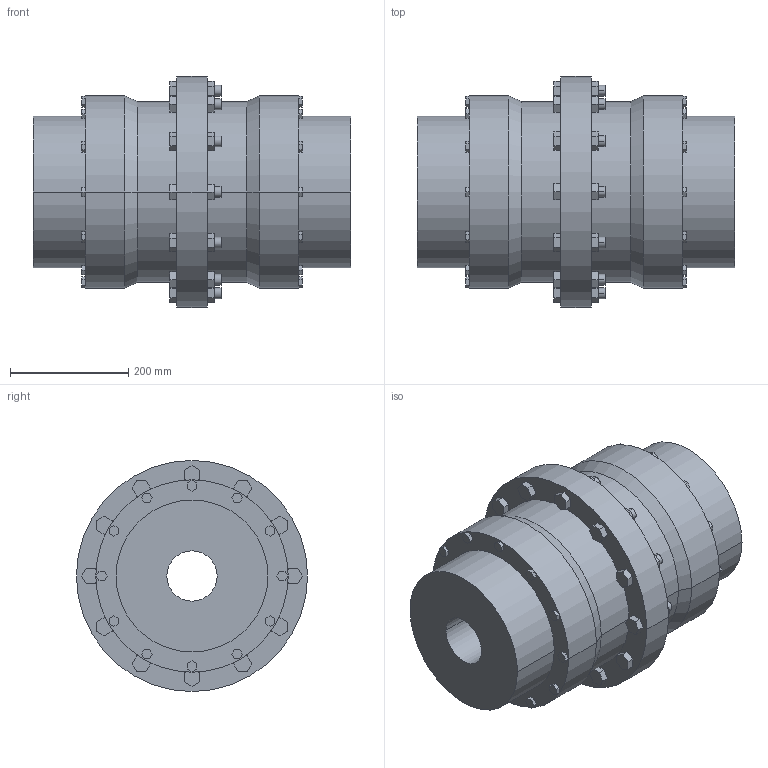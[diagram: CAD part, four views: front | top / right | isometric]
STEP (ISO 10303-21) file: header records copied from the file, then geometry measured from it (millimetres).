
FILE_DESCRIPTION((''),'2;1');
FILE_NAME('A19715800-0_ASM','2019-05-23T',('AB_Roschiwal'),('RENK AG'),'PRO/ENGINEER BY PARAMETRIC TECHNOLOGY CORPORATION, 2015440','PRO/ENGINEER BY PARAMETRIC TECHNOLOGY CORPORATION, 2015440','');
FILE_SCHEMA(('CONFIG_CONTROL_DESIGN'));
Length unit declared in the file: millimetre
Products named in the file (3): SBK160_GEHAEUSE; SBK160_NABE; A19715800-0_ASM
Assembly tree (3 placements, depth 2):
  A19715800-0_ASM
    SBK160_GEHAEUSE
    SBK160_NABE  x2
Bounding box: 536 x 390 x 390 mm (x, y, z)
Volume: 27435424.3 mm3; surface area: 1518921.4 mm2
Topology: 3 solids, 3 shells, 422 faces, 1036 edges, 688 vertices
Faces by surface type: plane 362, cylinder 56, cone 4
Entity records: 12052 total; most frequent: CARTESIAN_POINT 2100, ORIENTED_EDGE 2024, DIRECTION 1940, EDGE_CURVE 1012, VECTOR 916, LINE 916, VERTEX_POINT 672, AXIS2_PLACEMENT_3D 512
